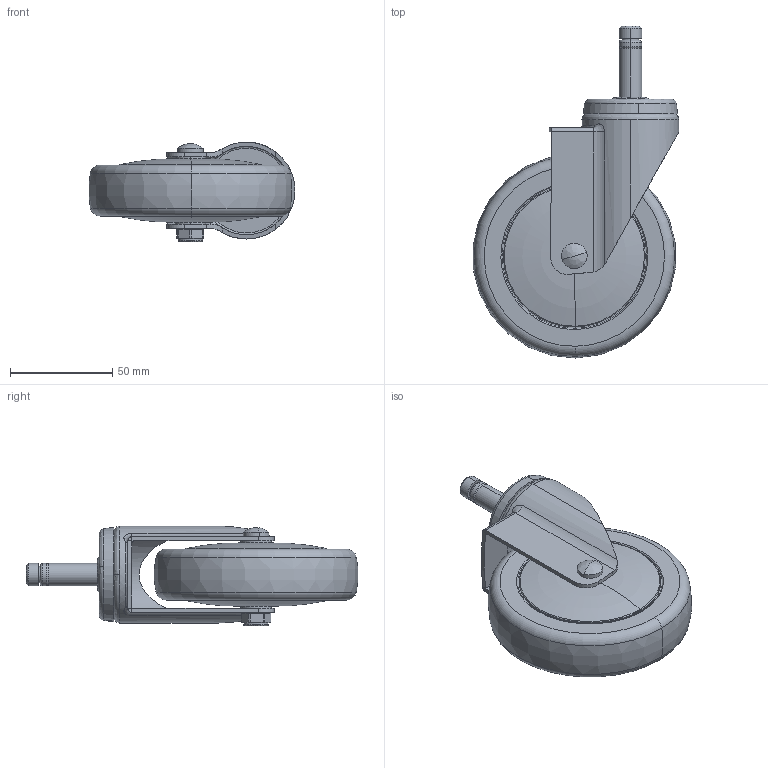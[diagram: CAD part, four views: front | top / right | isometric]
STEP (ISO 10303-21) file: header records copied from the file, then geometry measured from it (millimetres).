
FILE_DESCRIPTION (( 'STEP AP214' ), '1' );
FILE_NAME ('37254-374-67 脣裝勀砃.STEP', '2019-12-14T00:03:15', ( 'Owner' ), ( 'Organization' ), 'SwSTEP 2.0', 'SolidWorks 2014', '' );
FILE_SCHEMA (( 'AUTOMOTIVE_DESIGN' ));
Length unit declared in the file: millimetre
Products named in the file (9): 360-03上刚碗 （37系列使用模型）; 价陬; 350-33a; 374-907; 350-25 脣裝; 300-34; 4渡勀砃; 374-11; 37254-374-67 脣裝勀砃
Assembly tree (8 placements, depth 4):
  37254-374-67 脣裝勀砃
    4渡勀砃
      360-03上刚碗 （37系列使用模型）
      374-11
      价陬
        300-34
        350-33a
    350-25 脣裝
    374-907
Bounding box: 100.87 x 162.69 x 48.9 mm (x, y, z)
Volume: 237878.9 mm3; surface area: 51391.9 mm2
Topology: 6 solids, 6 shells, 220 faces, 548 edges, 346 vertices
Faces by surface type: cylinder 81, plane 47, bspline 43, torus 26, cone 23
Entity records: 85052 total; most frequent: CARTESIAN_POINT 79795, ORIENTED_EDGE 1086, DIRECTION 981, EDGE_CURVE 543, AXIS2_PLACEMENT_3D 416, VERTEX_POINT 346, EDGE_LOOP 241, CIRCLE 226
